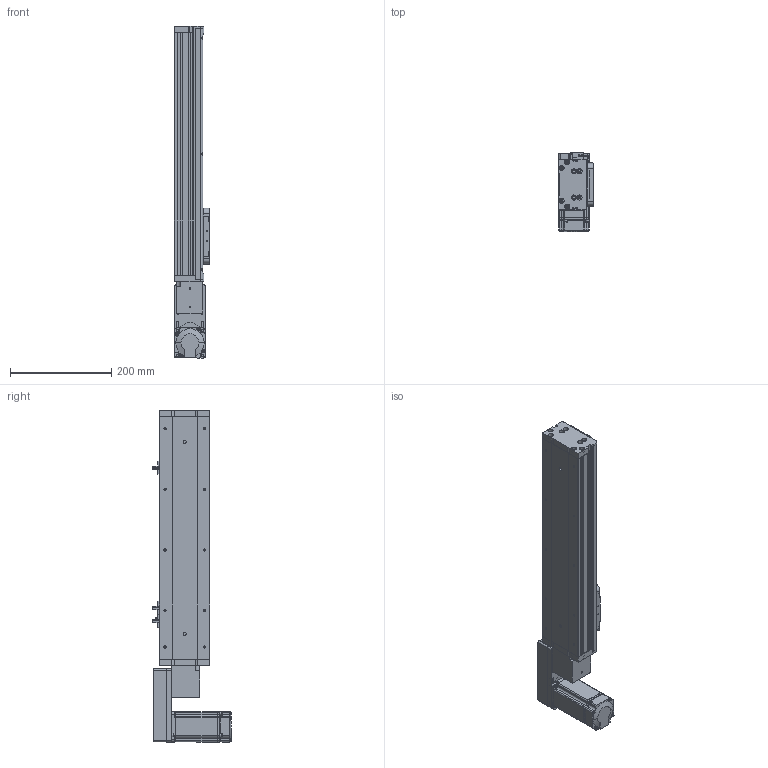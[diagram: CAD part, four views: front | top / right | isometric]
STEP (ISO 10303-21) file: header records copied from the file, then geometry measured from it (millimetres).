
FILE_DESCRIPTION (( 'STEP AP214' ), '1' );
FILE_NAME ('KSD100B-S300-MLB-CR.STEP', '2019-09-06T07:37:46', ( '微软用户' ), ( '微软中国' ), 'SwSTEP 2.0', 'SolidWorks 2014', '' );
FILE_SCHEMA (( 'AUTOMOTIVE_DESIGN' ));
Length unit declared in the file: millimetre
Products named in the file (15): 100宽滚珠螺姆安装板1防护罩; 100宽滚珠螺姆安装板1; MHMD042G1CA_2_03; 100遵裔啣揤啣; 100遵裔啣300俴最; 100宽侧板300行程同步带; 100宽底板全封闭300行程同步带; KSD100B-S300-MLB-CR; 悵誘欶奻狟殏; 100宽马达安装板连板上下折丝杆同步带; 感应片100宽全封闭; U倰嫖萇EEㄜSX672; 100宽马达安装板同步带左; 100遵鎮湛假蚾啣蜊; 100宽端板同步带全封闭
Assembly tree (18 placements, depth 2):
  KSD100B-S300-MLB-CR
    100宽底板全封闭300行程同步带
    100宽侧板300行程同步带  x2
    100遵裔啣300俴最
    100遵裔啣揤啣  x2
    100宽滚珠螺姆安装板1
    100宽滚珠螺姆安装板1防护罩
    100宽端板同步带全封闭
    100遵鎮湛假蚾啣蜊
    100宽马达安装板同步带左
    U倰嫖萇EEㄜSX672  x3
    感应片100宽全封闭
    100宽马达安装板连板上下折丝杆同步带
    悵誘欶奻狟殏
    MHMD042G1CA_2_03
Bounding box: 70 x 156.2 x 657 mm (x, y, z)
Volume: 1256831.6 mm3; surface area: 585235 mm2
Topology: 17 solids, 18 shells, 1621 faces, 4514 edges, 2927 vertices
Faces by surface type: plane 729, cylinder 709, cone 163, bspline 20
Entity records: 57346 total; most frequent: CARTESIAN_POINT 8622, DIRECTION 7838, ORIENTED_EDGE 7276, EDGE_CURVE 3710, AXIS2_PLACEMENT_3D 2801, VERTEX_POINT 2465, VECTOR 2236, LINE 2236
